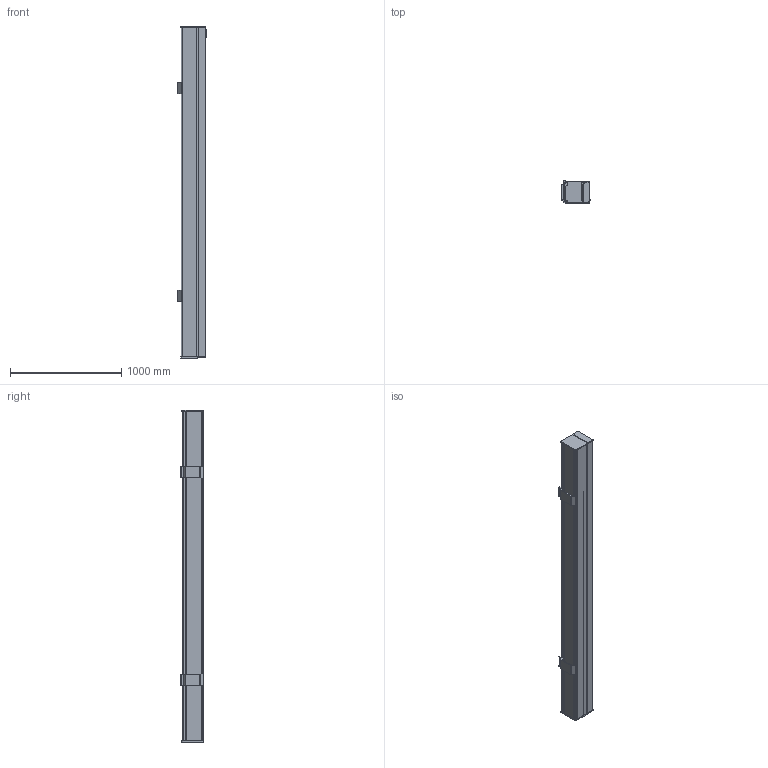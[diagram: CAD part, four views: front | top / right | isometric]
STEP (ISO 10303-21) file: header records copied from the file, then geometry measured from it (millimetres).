
FILE_DESCRIPTION (( 'STEP AP203' ), '1' );
FILE_NAME ('3300-220-Totale.STEP', '2023-01-23T11:20:29', ( '' ), ( '' ), 'SwSTEP 2.0', 'SolidWorks 2020', '' );
FILE_SCHEMA (( 'CONFIG_CONTROL_DESIGN' ));
Length unit declared in the file: millimetre
Products named in the file (1): 3300-220-Totale
Bounding box: 252.6 x 205 x 2990 mm (x, y, z)
Volume: 7472395.1 mm3; surface area: 5463249.2 mm2
Topology: 9 solids, 9 shells, 367 faces, 1007 edges, 670 vertices
Faces by surface type: plane 195, cylinder 99, bspline 73
Entity records: 12098 total; most frequent: CARTESIAN_POINT 3054, ORIENTED_EDGE 2014, DIRECTION 1625, EDGE_CURVE 1007, VERTEX_POINT 670, LINE 663, VECTOR 663, AXIS2_PLACEMENT_3D 481
